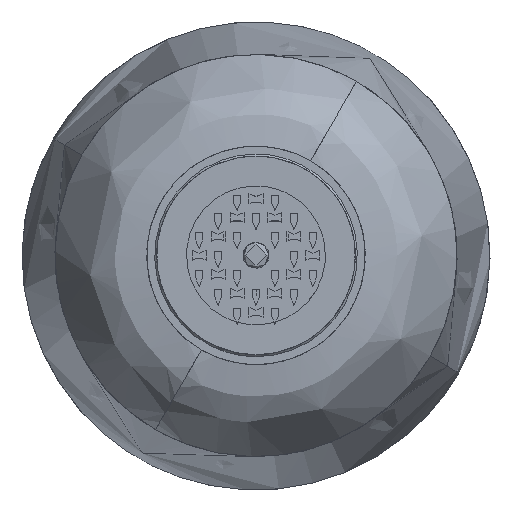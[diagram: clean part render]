
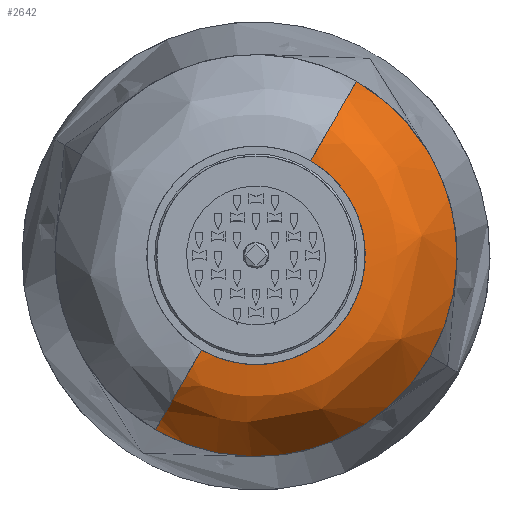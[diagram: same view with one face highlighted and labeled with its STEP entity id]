
A CAD part, top view. The second image highlights one B-rep face of the part: STEP entity #2642.
In plain terms, the highlighted free-form (B-spline) face has degree [2, 3] with [3, 4] control points.
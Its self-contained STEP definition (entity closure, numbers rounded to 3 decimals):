
#2642=ADVANCED_FACE('',(#3415),#21010,.T.);
#3415=FACE_OUTER_BOUND('',#4188,.T.);
#4188=EDGE_LOOP('',(#5098,#5099,#5100,#5101,#5102));
#5098=ORIENTED_EDGE('',*,*,#9086,.T.);
#5099=ORIENTED_EDGE('',*,*,#9087,.T.);
#5100=ORIENTED_EDGE('',*,*,#9090,.T.);
#5101=ORIENTED_EDGE('',*,*,#9088,.T.);
#5102=ORIENTED_EDGE('',*,*,#9089,.T.);
#9086=EDGE_CURVE('',#17046,#17047,#13057,.T.);
#9087=EDGE_CURVE('',#17047,#17050,#14752,.T.);
#9088=EDGE_CURVE('',#17048,#17049,#13058,.T.);
#9089=EDGE_CURVE('',#17049,#17046,#14753,.T.);
#9090=EDGE_CURVE('',#17050,#17048,#14754,.T.);
#13057=B_SPLINE_CURVE_WITH_KNOTS('',2,(#23050,#23051,#23052),
 .UNSPECIFIED.,.F.,.F.,(3,3),(0.,1.),.UNSPECIFIED.);
#13058=B_SPLINE_CURVE_WITH_KNOTS('',2,(#23056,#23057,#23058),
 .UNSPECIFIED.,.F.,.F.,(3,3),(-1.,0.),.UNSPECIFIED.);
#14752=(
BOUNDED_CURVE()
B_SPLINE_CURVE(2,(#23053,#23054,#23055),.UNSPECIFIED.,.F.,.F.)
B_SPLINE_CURVE_WITH_KNOTS((3,3),(0.,0.5),.UNSPECIFIED.)
CURVE()
GEOMETRIC_REPRESENTATION_ITEM()
RATIONAL_B_SPLINE_CURVE((1.,0.707,1.))
REPRESENTATION_ITEM('')
);
#14753=(
BOUNDED_CURVE()
B_SPLINE_CURVE(2,(#23059,#23060,#23061,#23062,#23063),.UNSPECIFIED.,.F.,
 .F.)
B_SPLINE_CURVE_WITH_KNOTS((3,2,3),(-1.,-0.5,0.),.UNSPECIFIED.)
CURVE()
GEOMETRIC_REPRESENTATION_ITEM()
RATIONAL_B_SPLINE_CURVE((1.,0.707,1.,0.707,1.))
REPRESENTATION_ITEM('')
);
#14754=(
BOUNDED_CURVE()
B_SPLINE_CURVE(2,(#23064,#23065,#23066),.UNSPECIFIED.,.F.,.F.)
B_SPLINE_CURVE_WITH_KNOTS((3,3),(0.5,1.),.UNSPECIFIED.)
CURVE()
GEOMETRIC_REPRESENTATION_ITEM()
RATIONAL_B_SPLINE_CURVE((1.,0.707,1.))
REPRESENTATION_ITEM('')
);
#17046=VERTEX_POINT('',#23045);
#17047=VERTEX_POINT('',#23046);
#17048=VERTEX_POINT('',#23047);
#17049=VERTEX_POINT('',#23048);
#17050=VERTEX_POINT('',#23049);
#21010=(
BOUNDED_SURFACE()
B_SPLINE_SURFACE(2,3,((#23033,#23034,#23035,#23036),(#23037,#23038,#23039,
#23040),(#23041,#23042,#23043,#23044)),.UNSPECIFIED.,.F.,.F.,.F.)
B_SPLINE_SURFACE_WITH_KNOTS((3,3),(4,4),(0.,1.),(0.,1.),.UNSPECIFIED.)
GEOMETRIC_REPRESENTATION_ITEM()
RATIONAL_B_SPLINE_SURFACE(((1.,0.333,0.333,1.),
(1.,0.333,0.333,1.),(1.,0.333,0.333,
1.)))
REPRESENTATION_ITEM('')
SURFACE()
);
#23033=CARTESIAN_POINT('',(55.,165.,0.));
#23034=CARTESIAN_POINT('',(55.,165.,-110.));
#23035=CARTESIAN_POINT('',(-55.,165.,-110.));
#23036=CARTESIAN_POINT('',(-55.,165.,0.));
#23037=CARTESIAN_POINT('',(90.,165.,0.));
#23038=CARTESIAN_POINT('',(90.,165.,-180.));
#23039=CARTESIAN_POINT('',(-90.,165.,-180.));
#23040=CARTESIAN_POINT('',(-90.,165.,0.));
#23041=CARTESIAN_POINT('',(101.234,124.16,0.));
#23042=CARTESIAN_POINT('',(101.234,124.16,-202.469));
#23043=CARTESIAN_POINT('',(-101.234,124.16,-202.469));
#23044=CARTESIAN_POINT('',(-101.234,124.16,0.));
#23045=CARTESIAN_POINT('',(55.,165.,0.));
#23046=CARTESIAN_POINT('',(101.234,124.16,0.));
#23047=CARTESIAN_POINT('',(-101.234,124.16,0.));
#23048=CARTESIAN_POINT('',(-55.,165.,0.));
#23049=CARTESIAN_POINT('',(0.,124.16,-101.234));
#23050=CARTESIAN_POINT('',(55.,165.,0.));
#23051=CARTESIAN_POINT('',(90.,165.,0.));
#23052=CARTESIAN_POINT('',(101.234,124.16,0.));
#23053=CARTESIAN_POINT('',(101.234,124.16,0.));
#23054=CARTESIAN_POINT('',(101.234,124.16,-101.234));
#23055=CARTESIAN_POINT('',(0.,124.16,-101.234));
#23056=CARTESIAN_POINT('',(-101.234,124.16,0.));
#23057=CARTESIAN_POINT('',(-90.,165.,0.));
#23058=CARTESIAN_POINT('',(-55.,165.,0.));
#23059=CARTESIAN_POINT('',(-55.,165.,0.));
#23060=CARTESIAN_POINT('',(-55.,165.,-55.));
#23061=CARTESIAN_POINT('',(0.,165.,-55.));
#23062=CARTESIAN_POINT('',(55.,165.,-55.));
#23063=CARTESIAN_POINT('',(55.,165.,0.));
#23064=CARTESIAN_POINT('',(0.,124.16,-101.234));
#23065=CARTESIAN_POINT('',(-101.234,124.16,-101.234));
#23066=CARTESIAN_POINT('',(-101.234,124.16,0.));
